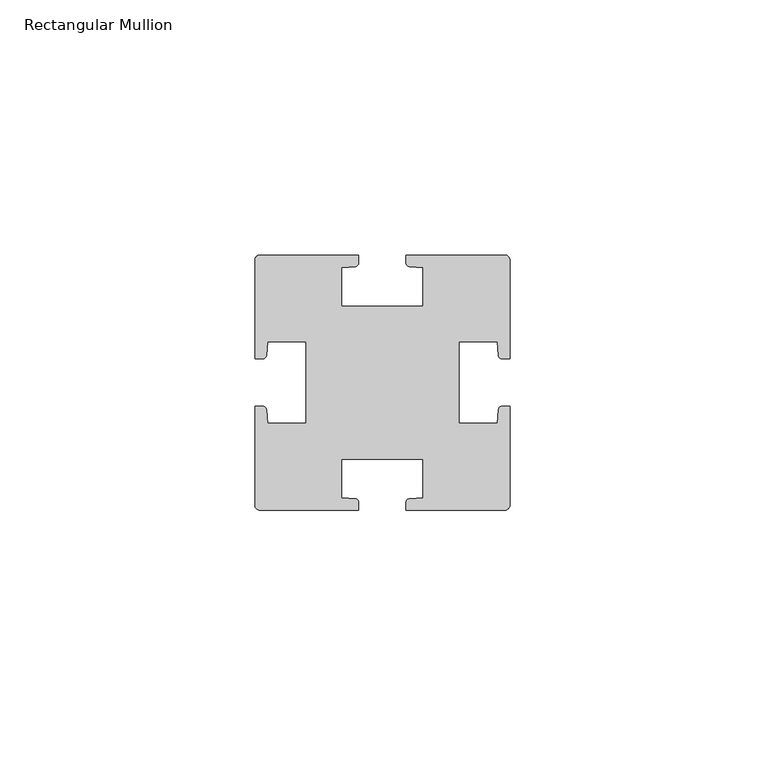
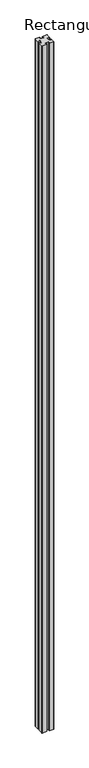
"""IFC4 building model written with IfcOpenShell, lengths in millimetres: member geometry, Rectangular Mullion : RSen_21_CWM_support profile - 50x50 - left_duco projects."""

from ifc_helpers import new_model, si_unit, point, frame, frame_2d, origin, place, context, project, spatial, polyline, circle_curve, trimmed, segment, composite_curve, outline, extrude, source, transform, mapped, element, save


def rectangular_mullion_72dc8ee9(model_context):
    return source(origin(), model_context, "Body", "SweptSolid", [
        extrude(outline(composite_curve([segment(polyline([(-50.0, -28.65), (-50.0, -48.0)]), True, "CONTINUOUS"), segment(trimmed(circle_curve(frame_2d((-51.0, -48.0)), 1.0), [point((-50.0, -48.0))], [point((-51.0, -49.0))], False, "CARTESIAN"), True, "CONTINUOUS"), segment(polyline([(-51.0, -49.0), (-70.35, -49.0), (-70.35, -47.4527606)]), True, "CONTINUOUS"), segment(trimmed(circle_curve(frame_2d((-69.65, -47.4527606)), 0.7), [point((-70.35, -47.4527606))], [point((-69.6988295, -46.7544657))], False, "CARTESIAN"), True, "CONTINUOUS"), segment(polyline([(-69.6988295, -46.7544657), (-67.0, -46.5657452), (-67.0, -39.0), (-83.0, -39.0), (-83.0, -46.5657452), (-80.3011705, -46.7544657)]), True, "CONTINUOUS"), segment(trimmed(circle_curve(frame_2d((-80.35, -47.4527606)), 0.7), [point((-80.3011705, -46.7544657))], [point((-79.65, -47.4527606))], False, "CARTESIAN"), True, "CONTINUOUS"), segment(polyline([(-79.65, -47.4527606), (-79.65, -49.0), (-99.0, -49.0)]), True, "CONTINUOUS"), segment(trimmed(circle_curve(frame_2d((-99.0, -48.0)), 1.0), [point((-99.0, -49.0))], [point((-100.0, -48.0))], False, "CARTESIAN"), True, "CONTINUOUS"), segment(polyline([(-100.0, -48.0), (-100.0, -28.65), (-98.4527606, -28.65)]), True, "CONTINUOUS"), segment(trimmed(circle_curve(frame_2d((-98.4527606, -29.35)), 0.7), [point((-98.4527606, -28.65))], [point((-97.7544657, -29.3011705))], False, "CARTESIAN"), True, "CONTINUOUS"), segment(polyline([(-97.7544657, -29.3011705), (-97.5657452, -32.0), (-90.0, -32.0), (-90.0, -16.0), (-97.5657452, -16.0), (-97.7544657, -18.6988295)]), True, "CONTINUOUS"), segment(trimmed(circle_curve(frame_2d((-98.4527606, -18.65)), 0.7), [point((-97.7544657, -18.6988295))], [point((-98.4527606, -19.35))], False, "CARTESIAN"), True, "CONTINUOUS"), segment(polyline([(-98.4527606, -19.35), (-100.0, -19.35), (-100.0, 0.0)]), True, "CONTINUOUS"), segment(trimmed(circle_curve(frame_2d((-99.0, 0.0)), 1.0), [point((-100.0, 0.0))], [point((-99.0, 1.0))], False, "CARTESIAN"), True, "CONTINUOUS"), segment(polyline([(-99.0, 1.0), (-79.65, 1.0), (-79.65, -0.5472394)]), True, "CONTINUOUS"), segment(trimmed(circle_curve(frame_2d((-80.35, -0.5472394)), 0.7), [point((-79.65, -0.5472394))], [point((-80.3011705, -1.2455343))], False, "CARTESIAN"), True, "CONTINUOUS"), segment(polyline([(-80.3011705, -1.2455343), (-83.0, -1.4342548), (-83.0, -9.0), (-67.0, -9.0), (-67.0, -1.4342548), (-69.6988295, -1.2455343)]), True, "CONTINUOUS"), segment(trimmed(circle_curve(frame_2d((-69.65, -0.5472394)), 0.7), [point((-69.6988295, -1.2455343))], [point((-70.35, -0.5472394))], False, "CARTESIAN"), True, "CONTINUOUS"), segment(polyline([(-70.35, -0.5472394), (-70.35, 1.0), (-51.0, 1.0)]), True, "CONTINUOUS"), segment(trimmed(circle_curve(frame_2d((-51.0, 0.0)), 1.0), [point((-51.0, 1.0))], [point((-50.0, 0.0))], False, "CARTESIAN"), True, "CONTINUOUS"), segment(polyline([(-50.0, 0.0), (-50.0, -19.35), (-51.5472394, -19.35)]), True, "CONTINUOUS"), segment(trimmed(circle_curve(frame_2d((-51.5472394, -18.65)), 0.7), [point((-51.5472394, -19.35))], [point((-52.2455343, -18.6988295))], False, "CARTESIAN"), True, "CONTINUOUS"), segment(polyline([(-52.2455343, -18.6988295), (-52.4342548, -16.0), (-60.0, -16.0), (-60.0, -32.0), (-52.4342548, -32.0), (-52.2455343, -29.3011705)]), True, "CONTINUOUS"), segment(trimmed(circle_curve(frame_2d((-51.5472394, -29.35)), 0.7), [point((-52.2455343, -29.3011705))], [point((-51.5472394, -28.65))], False, "CARTESIAN"), True, "CONTINUOUS"), segment(polyline([(-51.5472394, -28.65), (-50.0, -28.65)]), True, "CONTINUOUS")], self_intersect=False)), frame((0.0, 0.0, -3000.0), z_axis=(0.0, 0.0, 1.0), x_axis=(1.0, 0.0, 0.0)), (0.0, 0.0, 1.0), 3000.0),
    ])


if __name__ == "__main__":
    model = new_model("IFC4")
    model_context = context("Model", 3, world=origin())
    ifc_project = project(units=[si_unit("LENGTHUNIT", "METRE", prefix="MILLI")], contexts=[model_context])
    site = spatial("IfcSite", under=ifc_project)
    building = spatial("IfcBuilding", under=site)
    placement = place(None, origin())
    rectangular_mullion_shape = rectangular_mullion_72dc8ee9(model_context)
    element("IfcMember", 1, ObjectType="Rectangular Mullion : RSen_21_CWM_support profile - 50x50 - left_duco projects", at=placement, inside=building, context=model_context, shape_type="MappedRepresentation", body=[
        mapped(rectangular_mullion_shape, transform((0.0, 0.0, 0.0), x_axis=(1.0, 0.0, 0.0), y_axis=(0.0, 1.0, 0.0), z_axis=(0.0, 0.0, 1.0))),
    ])
    save(model, "model.ifc")
